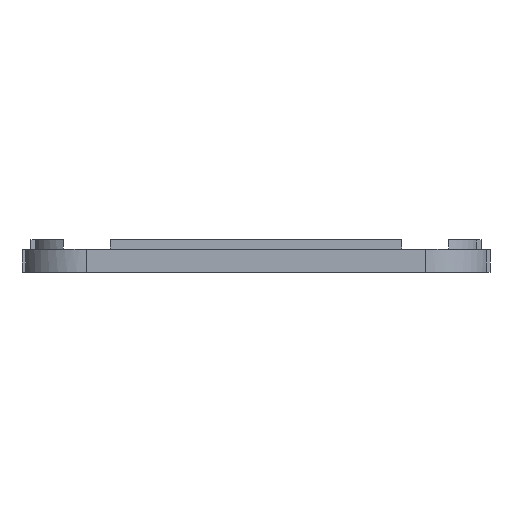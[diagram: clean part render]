
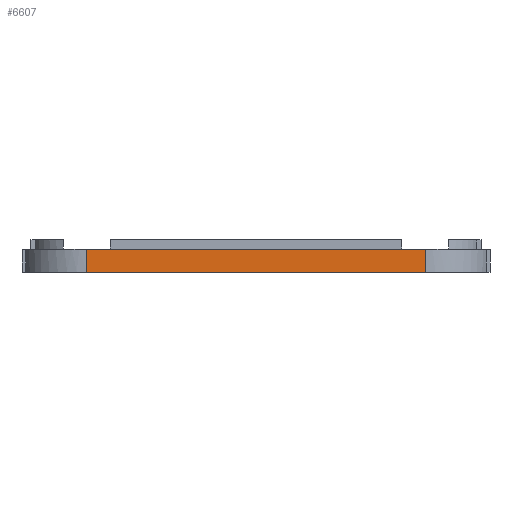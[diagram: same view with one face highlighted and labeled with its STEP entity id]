
A CAD part, front view. The second image highlights one B-rep face of the part: STEP entity #6607.
In plain terms, the highlighted planar face has unit normal (0, -1, 0).
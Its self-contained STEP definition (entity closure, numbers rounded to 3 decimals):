
#22 = VERTEX_POINT('',#23);
#23 = CARTESIAN_POINT('',(-60.342,-105.,9.));
#32 = EDGE_CURVE('',#22,#33,#35,.T.);
#33 = VERTEX_POINT('',#34);
#34 = CARTESIAN_POINT('',(60.342,-105.,9.));
#35 = LINE('',#36,#37);
#36 = CARTESIAN_POINT('',(-94.,-105.,9.));
#37 = VECTOR('',#38,1.);
#38 = DIRECTION('',(1.,0.,0.));
#88 = EDGE_CURVE('',#22,#89,#91,.T.);
#89 = VERTEX_POINT('',#90);
#90 = CARTESIAN_POINT('',(-60.342,-105.,9.3));
#91 = LINE('',#92,#93);
#92 = CARTESIAN_POINT('',(-60.342,-105.,0.));
#93 = VECTOR('',#94,1.);
#94 = DIRECTION('',(0.,0.,1.));
#217 = EDGE_CURVE('',#33,#218,#220,.T.);
#218 = VERTEX_POINT('',#219);
#219 = CARTESIAN_POINT('',(60.342,-105.,9.3));
#220 = LINE('',#221,#222);
#221 = CARTESIAN_POINT('',(60.342,-105.,0.));
#222 = VECTOR('',#223,1.);
#223 = DIRECTION('',(0.,0.,1.));
#5609 = VERTEX_POINT('',#5610);
#5610 = CARTESIAN_POINT('',(68.,-105.,0.));
#5617 = EDGE_CURVE('',#5618,#5609,#5620,.T.);
#5618 = VERTEX_POINT('',#5619);
#5619 = CARTESIAN_POINT('',(-68.,-105.,0.));
#5620 = LINE('',#5621,#5622);
#5621 = CARTESIAN_POINT('',(-94.,-105.,0.));
#5622 = VECTOR('',#5623,1.);
#5623 = DIRECTION('',(1.,0.,0.));
#6607 = ADVANCED_FACE('',(#6608),#6642,.T.);
#6608 = FACE_BOUND('',#6609,.T.);
#6609 = EDGE_LOOP('',(#6610,#6611,#6612,#6620,#6626,#6627,#6635,#6641));
#6610 = ORIENTED_EDGE('',*,*,#32,.F.);
#6611 = ORIENTED_EDGE('',*,*,#88,.T.);
#6612 = ORIENTED_EDGE('',*,*,#6613,.F.);
#6613 = EDGE_CURVE('',#6614,#89,#6616,.T.);
#6614 = VERTEX_POINT('',#6615);
#6615 = CARTESIAN_POINT('',(-68.,-105.,9.3));
#6616 = LINE('',#6617,#6618);
#6617 = CARTESIAN_POINT('',(-94.,-105.,9.3));
#6618 = VECTOR('',#6619,1.);
#6619 = DIRECTION('',(1.,0.,0.));
#6620 = ORIENTED_EDGE('',*,*,#6621,.F.);
#6621 = EDGE_CURVE('',#5618,#6614,#6622,.T.);
#6622 = LINE('',#6623,#6624);
#6623 = CARTESIAN_POINT('',(-68.,-105.,0.));
#6624 = VECTOR('',#6625,1.);
#6625 = DIRECTION('',(0.,0.,1.));
#6626 = ORIENTED_EDGE('',*,*,#5617,.T.);
#6627 = ORIENTED_EDGE('',*,*,#6628,.T.);
#6628 = EDGE_CURVE('',#5609,#6629,#6631,.T.);
#6629 = VERTEX_POINT('',#6630);
#6630 = CARTESIAN_POINT('',(68.,-105.,9.3));
#6631 = LINE('',#6632,#6633);
#6632 = CARTESIAN_POINT('',(68.,-105.,0.));
#6633 = VECTOR('',#6634,1.);
#6634 = DIRECTION('',(0.,0.,1.));
#6635 = ORIENTED_EDGE('',*,*,#6636,.F.);
#6636 = EDGE_CURVE('',#218,#6629,#6637,.T.);
#6637 = LINE('',#6638,#6639);
#6638 = CARTESIAN_POINT('',(-94.,-105.,9.3));
#6639 = VECTOR('',#6640,1.);
#6640 = DIRECTION('',(1.,0.,0.));
#6641 = ORIENTED_EDGE('',*,*,#217,.F.);
#6642 = PLANE('',#6643);
#6643 = AXIS2_PLACEMENT_3D('',#6644,#6645,#6646);
#6644 = CARTESIAN_POINT('',(0.,-105.,4.535));
#6645 = DIRECTION('',(-0.,-1.,-0.));
#6646 = DIRECTION('',(0.,0.,-1.));
